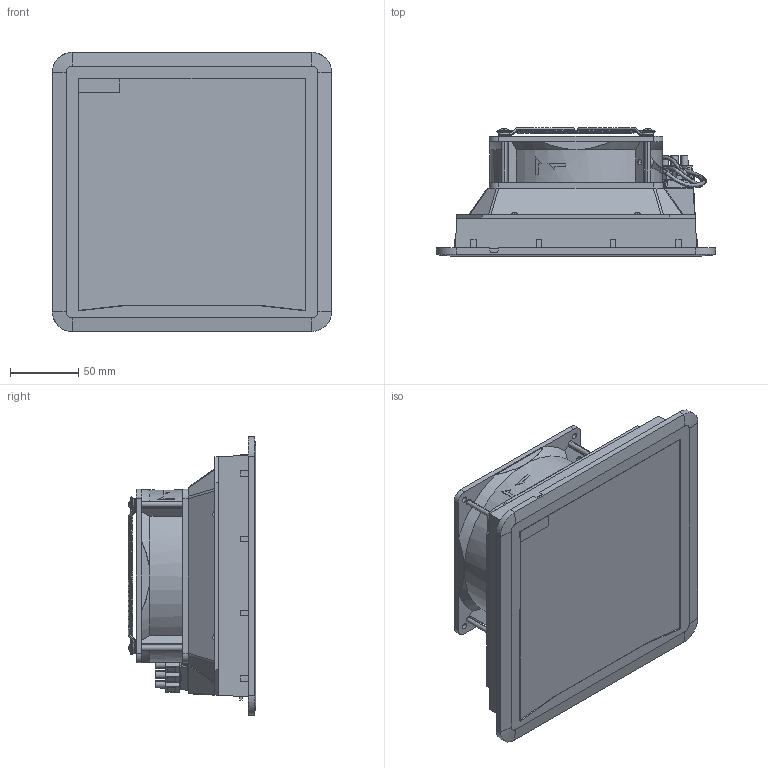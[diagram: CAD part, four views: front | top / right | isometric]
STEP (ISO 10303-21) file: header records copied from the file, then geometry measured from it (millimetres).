
FILE_DESCRIPTION(/* description */ (''),/* implementation_level */ '2;1');
FILE_NAME(/* name */ 'FPF13K~2',/* time_stamp */ '2019-09-09T15:13:38+02:00',/* author */ (''),/* organization */ (''),/* preprocessor_version */ 'ST-DEVELOPER v14',/* originating_system */ '',/* authorisation */ '');
FILE_SCHEMA (('CONFIG_CONTROL_DESIGN'));
Length unit declared in the file: millimetre
Products named in the file (1): Document
Bounding box: 204 x 93.5 x 204 mm (x, y, z)
Volume: 14942.9 mm3; surface area: 163654.1 mm2
Topology: 25 solids, 26 shells, 812 faces, 2052 edges, 1314 vertices
Faces by surface type: plane 457, bspline 355
Entity records: 52591 total; most frequent: CARTESIAN_POINT 39797, ORIENTED_EDGE 4075, EDGE_CURVE 2051, VERTEX_POINT 1314, B_SPLINE_CURVE_WITH_KNOTS 1228, EDGE_LOOP 897, ADVANCED_FACE 812, FACE_OUTER_BOUND 812
